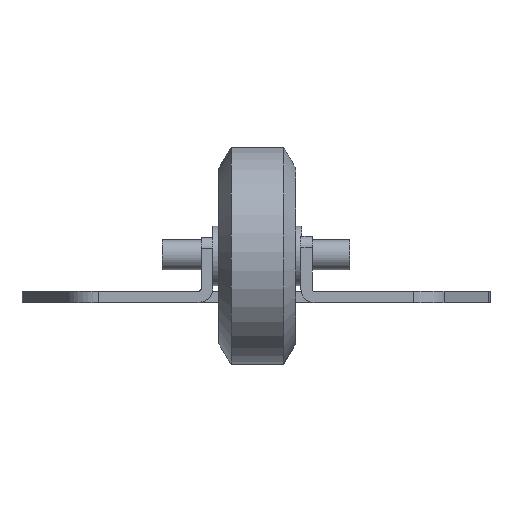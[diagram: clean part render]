
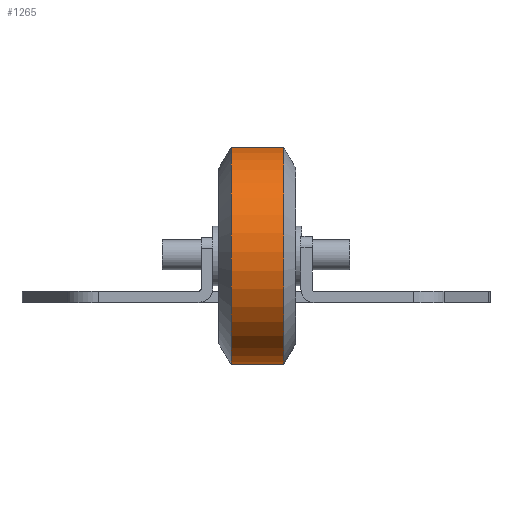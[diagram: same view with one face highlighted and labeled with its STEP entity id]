
A CAD part, front view. The second image highlights one B-rep face of the part: STEP entity #1265.
In plain terms, the highlighted cylindrical face has radius 29 mm (diameter 58 mm), a full revolution.
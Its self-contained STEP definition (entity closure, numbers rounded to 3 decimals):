
#78=CYLINDRICAL_SURFACE('',#1432,29.);
#133=CIRCLE('',#1431,29.);
#134=CIRCLE('',#1433,29.);
#459=ORIENTED_EDGE('',*,*,#638,.T.);
#460=ORIENTED_EDGE('',*,*,#637,.F.);
#637=EDGE_CURVE('',#757,#757,#133,.T.);
#638=EDGE_CURVE('',#758,#758,#134,.T.);
#757=VERTEX_POINT('',#2225);
#758=VERTEX_POINT('',#2228);
#1053=EDGE_LOOP('',(#459));
#1054=EDGE_LOOP('',(#460));
#1151=FACE_BOUND('',#1053,.T.);
#1152=FACE_BOUND('',#1054,.T.);
#1265=ADVANCED_FACE('',(#1151,#1152),#78,.T.);
#1431=AXIS2_PLACEMENT_3D('',#2224,#1776,#1777);
#1432=AXIS2_PLACEMENT_3D('',#2226,#1778,#1779);
#1433=AXIS2_PLACEMENT_3D('',#2227,#1780,#1781);
#1776=DIRECTION('',(1.,0.,0.));
#1777=DIRECTION('',(0.,1.,0.));
#1778=DIRECTION('',(-1.,0.,0.));
#1779=DIRECTION('',(0.,1.,0.));
#1780=DIRECTION('',(1.,0.,0.));
#1781=DIRECTION('',(0.,1.,0.));
#2224=CARTESIAN_POINT('',(4.512,-12.499,0.));
#2225=CARTESIAN_POINT('',(4.512,16.501,0.));
#2226=CARTESIAN_POINT('',(-2.488,-12.499,0.));
#2227=CARTESIAN_POINT('',(-9.488,-12.499,0.));
#2228=CARTESIAN_POINT('',(-9.488,16.501,0.));
